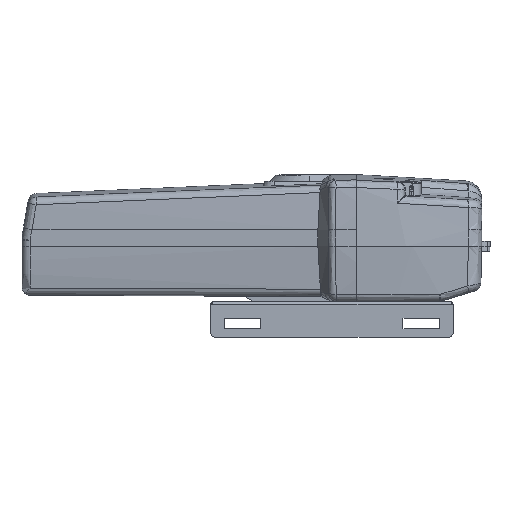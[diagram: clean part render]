
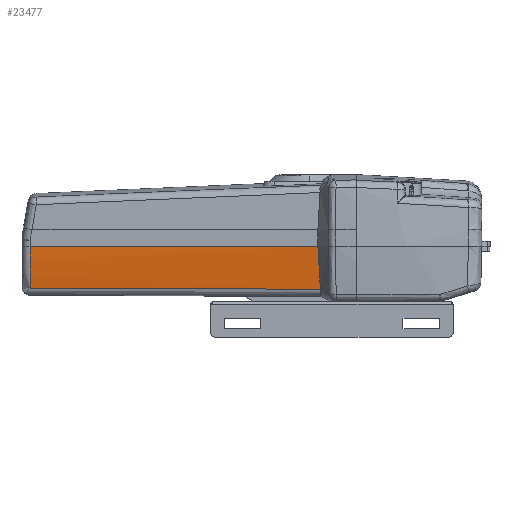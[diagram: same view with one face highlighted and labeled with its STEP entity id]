
A CAD part, left-side view. The second image highlights one B-rep face of the part: STEP entity #23477.
In plain terms, the highlighted conical face has half-angle 2 degrees and reference radius 188.5 mm.
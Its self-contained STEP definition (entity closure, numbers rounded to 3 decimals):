
#1713 = CARTESIAN_POINT ( 'NONE',  ( 1624.947, 1490.153, 5347.099 ) ) ;
#7816 = CARTESIAN_POINT ( 'NONE',  ( 1813.447, 1490.153, 5347.099 ) ) ;
#23477 = ADVANCED_FACE ( 'NONE', ( #52054 ), #91968, .T. ) ;
#24377 = VERTEX_POINT ( 'NONE', #144886 ) ;
#29687 = CARTESIAN_POINT ( 'NONE',  ( 1631.762, 1685.328, 5347.099 ) ) ;
#32702 = CARTESIAN_POINT ( 'NONE',  ( 1627.548, 1514.42, 5321.501 ) ) ;
#33678 = CARTESIAN_POINT ( 'NONE',  ( 1629.658, 1575.107, 5321.711 ) ) ;
#47591 = CARTESIAN_POINT ( 'NONE',  ( 1625.749, 1513.119, 5347.099 ) ) ;
#48815 = ORIENTED_EDGE ( 'NONE', *, *, #159035, .T. ) ;
#52054 = FACE_OUTER_BOUND ( 'NONE', #60752, .T. ) ;
#55091 = CARTESIAN_POINT ( 'NONE',  ( 1625.744, 1512.99, 5338.571 ) ) ;
#58764 = DIRECTION ( 'NONE',  ( 0., -1., 0. ) ) ;
#60752 = EDGE_LOOP ( 'NONE', ( #104211, #48815, #157404, #131930 ) ) ;
#67846 = EDGE_CURVE ( 'NONE', #96967, #79224, #121592, .T. ) ;
#71501 = AXIS2_PLACEMENT_3D ( 'NONE', #147172, #58764, #71524 ) ;
#71524 = DIRECTION ( 'NONE',  ( 0., 0., -1. ) ) ;
#79224 = VERTEX_POINT ( 'NONE', #47591 ) ;
#91650 = CARTESIAN_POINT ( 'NONE',  ( 1631.575, 1630.218, 5321.901 ) ) ;
#91968 = CONICAL_SURFACE ( 'NONE', #186077, 188.5, 0.035 ) ;
#92618 = CARTESIAN_POINT ( 'NONE',  ( 1627.451, 1511.631, 5321.491 ) ) ;
#96967 = VERTEX_POINT ( 'NONE', #29687 ) ;
#104211 = ORIENTED_EDGE ( 'NONE', *, *, #152572, .T. ) ;
#108023 = B_SPLINE_CURVE_WITH_KNOTS ( 'NONE', 3,
 ( #189643, #145442, #55091, #175898 ),
 .UNSPECIFIED., .F., .F.,
 ( 4, 4 ),
 ( 0., 1. ),
 .UNSPECIFIED. ) ;
#112057 = B_SPLINE_CURVE_WITH_KNOTS ( 'NONE', 3,
 ( #168269, #91650, #33678, #151574, #167287, #32702, #92618 ),
 .UNSPECIFIED., .F., .F.,
 ( 4, 3, 4 ),
 ( 0., 0.165, 0.174 ),
 .UNSPECIFIED. ) ;
#121592 = LINE ( 'NONE', #1713, #191968 ) ;
#122556 = DIRECTION ( 'NONE',  ( -0.035, -0.999, 0. ) ) ;
#125740 = DIRECTION ( 'NONE',  ( 0., -1., 0. ) ) ;
#131930 = ORIENTED_EDGE ( 'NONE', *, *, #140031, .T. ) ;
#140031 = EDGE_CURVE ( 'NONE', #96967, #149478, #156130, .T. ) ;
#144886 = CARTESIAN_POINT ( 'NONE',  ( 1627.451, 1511.631, 5321.491 ) ) ;
#145442 = CARTESIAN_POINT ( 'NONE',  ( 1626.309, 1512.494, 5330.01 ) ) ;
#147172 = CARTESIAN_POINT ( 'NONE',  ( 1813.447, 1685.328, 5347.099 ) ) ;
#149478 = VERTEX_POINT ( 'NONE', #188807 ) ;
#151574 = CARTESIAN_POINT ( 'NONE',  ( 1627.742, 1519.997, 5321.52 ) ) ;
#152572 = EDGE_CURVE ( 'NONE', #149478, #24377, #112057, .T. ) ;
#155183 = DIRECTION ( 'NONE',  ( 0., 0., 1. ) ) ;
#156130 = CIRCLE ( 'NONE', #71501, 181.684 ) ;
#157404 = ORIENTED_EDGE ( 'NONE', *, *, #67846, .F. ) ;
#159035 = EDGE_CURVE ( 'NONE', #24377, #79224, #108023, .T. ) ;
#167287 = CARTESIAN_POINT ( 'NONE',  ( 1627.645, 1517.208, 5321.511 ) ) ;
#168269 = CARTESIAN_POINT ( 'NONE',  ( 1633.491, 1685.328, 5322.091 ) ) ;
#175898 = CARTESIAN_POINT ( 'NONE',  ( 1625.749, 1513.119, 5347.099 ) ) ;
#186077 = AXIS2_PLACEMENT_3D ( 'NONE', #7816, #125740, #155183 ) ;
#188807 = CARTESIAN_POINT ( 'NONE',  ( 1633.491, 1685.328, 5322.091 ) ) ;
#189643 = CARTESIAN_POINT ( 'NONE',  ( 1627.451, 1511.631, 5321.491 ) ) ;
#191968 = VECTOR ( 'NONE', #122556, 1000. ) ;
